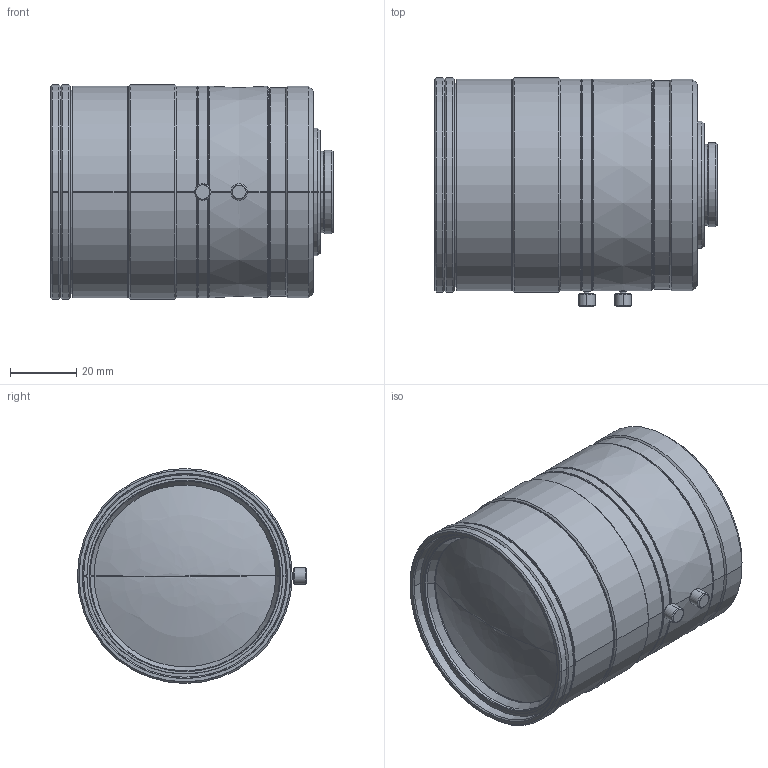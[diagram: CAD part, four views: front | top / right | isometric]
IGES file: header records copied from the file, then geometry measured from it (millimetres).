
Start section: SolidWorks IGES file using analytic representation for surfaces
Global section: file name: C:\Users\sugita_vst\Desktop\AutoCAD図面DATA\●・VS-50085_C  (3Dモデル) ▲\VS-50085_C.IGS; native system: SolidWorks 2018; preprocessor: SolidWorks 2018; author: sugita_vst; date: 190703.135546; units: millimetre
Bounding box: 85.47 x 69.3 x 65 mm (x, y, z)
Surface area: 28610.6 mm2 (no closed solid volume)
Topology: 0 solids, 0 shells, 145 faces, 2736 edges, 2735 vertices
Faces by surface type: revolution 124, bspline 21
